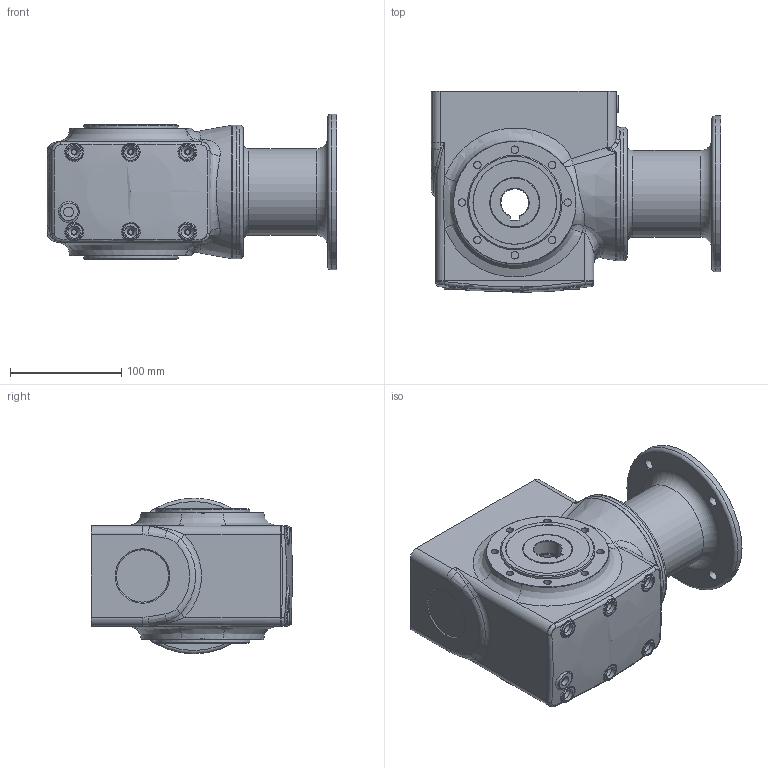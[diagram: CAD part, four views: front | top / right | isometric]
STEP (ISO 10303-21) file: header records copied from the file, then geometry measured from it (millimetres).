
FILE_DESCRIPTION(/* description */ (''),/* implementation_level */ '2;1');
FILE_NAME(/* name */ 'Z:\Dertec\RVS pakket tekeningen\Kasten\FSA + FS serie\FSA\FSA48\Step Customer\FSA48 HA25 AMFL 90B14A #.stp',/* time_stamp */ '2017-12-08T11:41:25+01:00',/* author */ ('Dertec'),/* organization */ (''),/* preprocessor_version */ 'ST-DEVELOPER v16.1',/* originating_system */ 'Autodesk Inventor 2016',/* authorisation */ '');
FILE_SCHEMA (('AUTOMOTIVE_DESIGN { 1 0 10303 214 3 1 1 }'));
Length unit declared in the file: inch
Products named in the file (1): Part60
Bounding box: 260 x 181 x 140 mm (x, y, z)
Volume: 2731784.6 mm3; surface area: 286376.8 mm2
Topology: 1 solids, 6 shells, 425 faces, 944 edges, 589 vertices
Faces by surface type: cylinder 142, plane 131, bspline 79, torus 36, cone 35, sphere 2
Full cylindrical faces by diameter (mm): 4.134 x6, 4.917 x4, 5.5 x6, 6.647 x15, 7 x4, 8.376 x4, 8.917 x1, 9 x4, 11 x6, 14 x4, 44.8 x1, 44.9 x4, 45 x2, 46 x1, 47 x2, 49.5 x1, 62 x1, 68 x2, 68.4 x1, 69 x1, 71 x1, 72 x1, 75 x3, 78 x3, 80 x1, 84 x1, 85 x2, 86 x1, 95 x1, 99 x1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
Entity records: 16982 total; most frequent: CARTESIAN_POINT 8201, DIRECTION 1655, ORIENTED_EDGE 1532, EDGE_CURVE 766, AXIS2_PLACEMENT_3D 750, EDGE_LOOP 640, VERTEX_POINT 550, STYLED_ITEM 426
